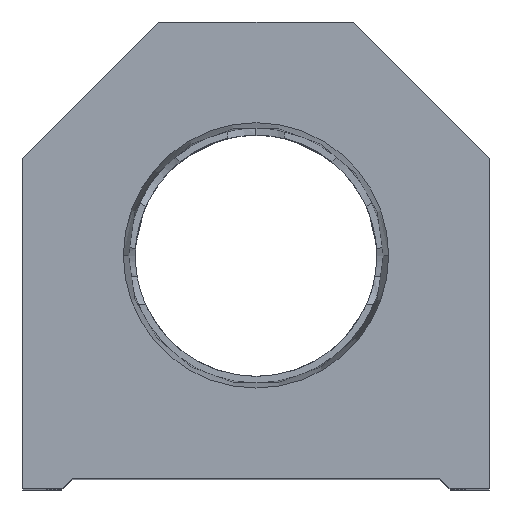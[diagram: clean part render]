
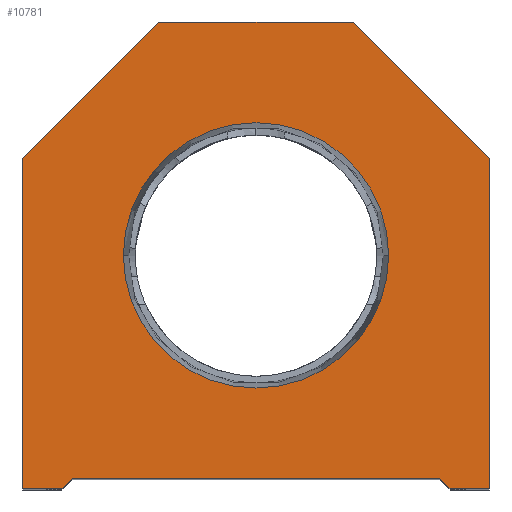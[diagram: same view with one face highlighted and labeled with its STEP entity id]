
A CAD part, top view. The second image highlights one B-rep face of the part: STEP entity #10781.
In plain terms, the highlighted planar face has unit normal (0, 0, 1).
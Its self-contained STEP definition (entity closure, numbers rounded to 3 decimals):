
#179 = LINE ( 'NONE', #10236, #1361 ) ;
#201 = DIRECTION ( 'NONE',  ( 0.707, -0.707, 0. ) ) ;
#621 = ORIENTED_EDGE ( 'NONE', *, *, #3085, .T. ) ;
#634 = VERTEX_POINT ( 'NONE', #7338 ) ;
#637 = VECTOR ( 'NONE', #12774, 1000. ) ;
#1068 = DIRECTION ( 'NONE',  ( 1., 0., 0. ) ) ;
#1229 = AXIS2_PLACEMENT_3D ( 'NONE', #11129, #7631, #2236 ) ;
#1361 = VECTOR ( 'NONE', #7830, 1000. ) ;
#1412 = CARTESIAN_POINT ( 'NONE',  ( 18.5, 0., 0. ) ) ;
#1453 = EDGE_CURVE ( 'NONE', #5537, #3148, #179, .T. ) ;
#1504 = CARTESIAN_POINT ( 'NONE',  ( -18.5, 0., 0. ) ) ;
#1519 = VERTEX_POINT ( 'NONE', #9071 ) ;
#1674 = DIRECTION ( 'NONE',  ( -0.707, 0.707, 0. ) ) ;
#1830 = CARTESIAN_POINT ( 'NONE',  ( 22.25, 0., 0. ) ) ;
#1968 = ORIENTED_EDGE ( 'NONE', *, *, #3649, .T. ) ;
#2236 = DIRECTION ( 'NONE',  ( 1., 0., 0. ) ) ;
#2347 = VECTOR ( 'NONE', #6928, 1000. ) ;
#2673 = ORIENTED_EDGE ( 'NONE', *, *, #7705, .F. ) ;
#2828 = LINE ( 'NONE', #5650, #5517 ) ;
#3085 = EDGE_CURVE ( 'NONE', #3148, #7030, #6731, .T. ) ;
#3148 = VERTEX_POINT ( 'NONE', #10636 ) ;
#3307 = ORIENTED_EDGE ( 'NONE', *, *, #15849, .T. ) ;
#3337 = EDGE_CURVE ( 'NONE', #10681, #5537, #10340, .T. ) ;
#3502 = VERTEX_POINT ( 'NONE', #4083 ) ;
#3649 = EDGE_CURVE ( 'NONE', #7362, #3502, #6839, .T. ) ;
#3799 = CARTESIAN_POINT ( 'NONE',  ( -22.25, 0., 0. ) ) ;
#3880 = FACE_BOUND ( 'NONE', #10214, .T. ) ;
#3962 = FACE_OUTER_BOUND ( 'NONE', #5135, .T. ) ;
#4083 = CARTESIAN_POINT ( 'NONE',  ( -17.5, 1., 0. ) ) ;
#4129 = CARTESIAN_POINT ( 'NONE',  ( 0., 0., 0. ) ) ;
#4250 = ORIENTED_EDGE ( 'NONE', *, *, #15905, .T. ) ;
#4511 = DIRECTION ( 'NONE',  ( 0., -1., 0. ) ) ;
#4722 = ORIENTED_EDGE ( 'NONE', *, *, #11586, .F. ) ;
#5135 = EDGE_LOOP ( 'NONE', ( #12184, #1968, #10942, #9997, #6045, #621, #15560, #4250, #12664, #3307 ) ) ;
#5309 = CARTESIAN_POINT ( 'NONE',  ( 9.25, 44.5, 0. ) ) ;
#5380 = VECTOR ( 'NONE', #201, 1000. ) ;
#5382 = LINE ( 'NONE', #15529, #11230 ) ;
#5517 = VECTOR ( 'NONE', #1674, 1000. ) ;
#5537 = VERTEX_POINT ( 'NONE', #1412 ) ;
#5650 = CARTESIAN_POINT ( 'NONE',  ( 22.25, 31.5, 0. ) ) ;
#5743 = CIRCLE ( 'NONE', #1229, 12.647 ) ;
#6045 = ORIENTED_EDGE ( 'NONE', *, *, #1453, .T. ) ;
#6221 = DIRECTION ( 'NONE',  ( 0., 0., 1. ) ) ;
#6581 = LINE ( 'NONE', #15387, #16068 ) ;
#6731 = LINE ( 'NONE', #1830, #15475 ) ;
#6839 = LINE ( 'NONE', #11812, #11750 ) ;
#6928 = DIRECTION ( 'NONE',  ( -1., 0., 0. ) ) ;
#7030 = VERTEX_POINT ( 'NONE', #11804 ) ;
#7229 = EDGE_CURVE ( 'NONE', #8771, #634, #5382, .T. ) ;
#7338 = CARTESIAN_POINT ( 'NONE',  ( -22.25, 31.5, 0. ) ) ;
#7362 = VERTEX_POINT ( 'NONE', #1504 ) ;
#7577 = AXIS2_PLACEMENT_3D ( 'NONE', #4129, #12938, #11994 ) ;
#7631 = DIRECTION ( 'NONE',  ( 0., 0., 1. ) ) ;
#7664 = EDGE_CURVE ( 'NONE', #13574, #7362, #8803, .T. ) ;
#7705 = EDGE_CURVE ( 'NONE', #1519, #7835, #12836, .T. ) ;
#7792 = PLANE ( 'NONE',  #7577 ) ;
#7830 = DIRECTION ( 'NONE',  ( 1., 0., 0. ) ) ;
#7835 = VERTEX_POINT ( 'NONE', #10625 ) ;
#8771 = VERTEX_POINT ( 'NONE', #15176 ) ;
#8803 = LINE ( 'NONE', #10120, #637 ) ;
#9071 = CARTESIAN_POINT ( 'NONE',  ( 12.647, 22.25, 0. ) ) ;
#9135 = AXIS2_PLACEMENT_3D ( 'NONE', #13953, #6221, #1068 ) ;
#9646 = EDGE_CURVE ( 'NONE', #3502, #10681, #6581, .T. ) ;
#9952 = CARTESIAN_POINT ( 'NONE',  ( 9.25, 9.25, 0. ) ) ;
#9997 = ORIENTED_EDGE ( 'NONE', *, *, #3337, .T. ) ;
#10120 = CARTESIAN_POINT ( 'NONE',  ( -17.5, 0., 0. ) ) ;
#10214 = EDGE_LOOP ( 'NONE', ( #2673, #4722 ) ) ;
#10236 = CARTESIAN_POINT ( 'NONE',  ( 17.5, 0., 0. ) ) ;
#10340 = LINE ( 'NONE', #9952, #5380 ) ;
#10360 = VERTEX_POINT ( 'NONE', #5309 ) ;
#10625 = CARTESIAN_POINT ( 'NONE',  ( -12.647, 22.25, 0. ) ) ;
#10636 = CARTESIAN_POINT ( 'NONE',  ( 22.25, 0., 0. ) ) ;
#10681 = VERTEX_POINT ( 'NONE', #13619 ) ;
#10781 = ADVANCED_FACE ( 'NONE', ( #3880, #3962 ), #7792, .T. ) ;
#10942 = ORIENTED_EDGE ( 'NONE', *, *, #9646, .T. ) ;
#11129 = CARTESIAN_POINT ( 'NONE',  ( 0., 22.25, 0. ) ) ;
#11230 = VECTOR ( 'NONE', #13192, 1000. ) ;
#11586 = EDGE_CURVE ( 'NONE', #7835, #1519, #5743, .T. ) ;
#11750 = VECTOR ( 'NONE', #13388, 1000. ) ;
#11804 = CARTESIAN_POINT ( 'NONE',  ( 22.25, 31.5, 0. ) ) ;
#11812 = CARTESIAN_POINT ( 'NONE',  ( -9.25, 9.25, 0. ) ) ;
#11982 = CARTESIAN_POINT ( 'NONE',  ( 9.25, 44.5, 0. ) ) ;
#11994 = DIRECTION ( 'NONE',  ( 1., 0., 0. ) ) ;
#12152 = LINE ( 'NONE', #13237, #12958 ) ;
#12184 = ORIENTED_EDGE ( 'NONE', *, *, #7664, .T. ) ;
#12664 = ORIENTED_EDGE ( 'NONE', *, *, #7229, .T. ) ;
#12774 = DIRECTION ( 'NONE',  ( 1., 0., 0. ) ) ;
#12836 = CIRCLE ( 'NONE', #9135, 12.647 ) ;
#12938 = DIRECTION ( 'NONE',  ( 0., 0., 1. ) ) ;
#12958 = VECTOR ( 'NONE', #4511, 1000. ) ;
#13192 = DIRECTION ( 'NONE',  ( -0.707, -0.707, 0. ) ) ;
#13237 = CARTESIAN_POINT ( 'NONE',  ( -22.25, 0., 0. ) ) ;
#13388 = DIRECTION ( 'NONE',  ( 0.707, 0.707, 0. ) ) ;
#13574 = VERTEX_POINT ( 'NONE', #3799 ) ;
#13619 = CARTESIAN_POINT ( 'NONE',  ( 17.5, 1., 0. ) ) ;
#13953 = CARTESIAN_POINT ( 'NONE',  ( 0., 22.25, 0. ) ) ;
#14206 = DIRECTION ( 'NONE',  ( 0., 1., 0. ) ) ;
#14217 = EDGE_CURVE ( 'NONE', #7030, #10360, #2828, .T. ) ;
#14488 = LINE ( 'NONE', #11982, #2347 ) ;
#14532 = DIRECTION ( 'NONE',  ( 1., 0., 0. ) ) ;
#15176 = CARTESIAN_POINT ( 'NONE',  ( -9.25, 44.5, 0. ) ) ;
#15387 = CARTESIAN_POINT ( 'NONE',  ( -17.5, 1., 0. ) ) ;
#15475 = VECTOR ( 'NONE', #14206, 1000. ) ;
#15529 = CARTESIAN_POINT ( 'NONE',  ( -22.25, 31.5, 0. ) ) ;
#15560 = ORIENTED_EDGE ( 'NONE', *, *, #14217, .T. ) ;
#15849 = EDGE_CURVE ( 'NONE', #634, #13574, #12152, .T. ) ;
#15905 = EDGE_CURVE ( 'NONE', #10360, #8771, #14488, .T. ) ;
#16068 = VECTOR ( 'NONE', #14532, 1000. ) ;
